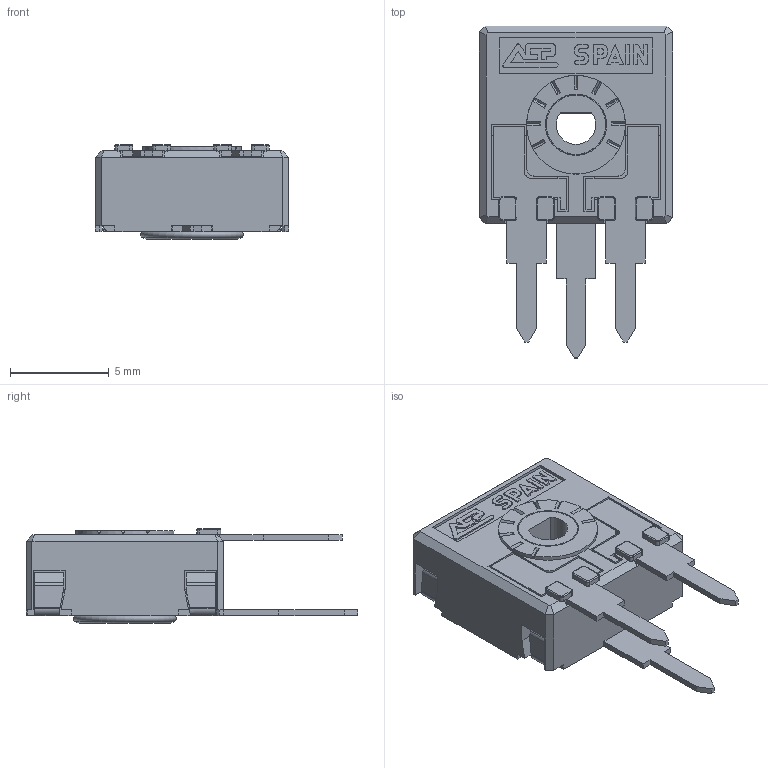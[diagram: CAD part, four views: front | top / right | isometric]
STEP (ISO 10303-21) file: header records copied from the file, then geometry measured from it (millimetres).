
FILE_DESCRIPTION(/* description */ (''),/* implementation_level */ '2;1');
FILE_NAME(/* name */ '\\SERVERACP\intercambio\Ignacio Santa Cecilia\Nueva WEB 2025\CA9 - CE9\CA9DH3,8.stp',/* time_stamp */ '2025-06-03T16:41:11+02:00',/* author */ ('CEM'),/* organization */ (''),/* preprocessor_version */ 'ST-DEVELOPER v17',/* originating_system */ 'Autodesk Inventor 2018',/* authorisation */ '');
FILE_SCHEMA (('AUTOMOTIVE_DESIGN { 1 0 10303 214 3 1 1 }'));
Length unit declared in the file: millimetre
Products named in the file (1): CA9DH3,8
Bounding box: 9.8 x 16.8 x 4.8 mm (x, y, z)
Volume: 244.1 mm3; surface area: 831 mm2
Topology: 2 solids, 2 shells, 580 faces, 1648 edges, 1055 vertices
Faces by surface type: plane 464, cylinder 80, torus 19, cone 17
Full cylindrical faces by diameter (mm): 3 x1, 3.1 x1, 4 x1, 4.8 x1, 5 x1
Entity records: 18821 total; most frequent: CARTESIAN_POINT 3342, ORIENTED_EDGE 3296, DIRECTION 3057, EDGE_CURVE 1648, LINE 1345, VECTOR 1345, VERTEX_POINT 1055, AXIS2_PLACEMENT_3D 856
